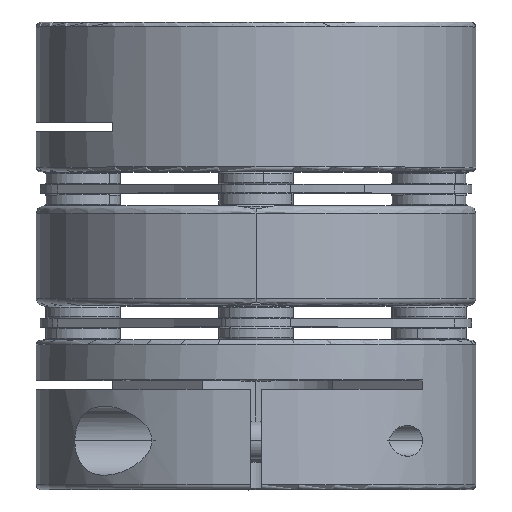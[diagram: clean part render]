
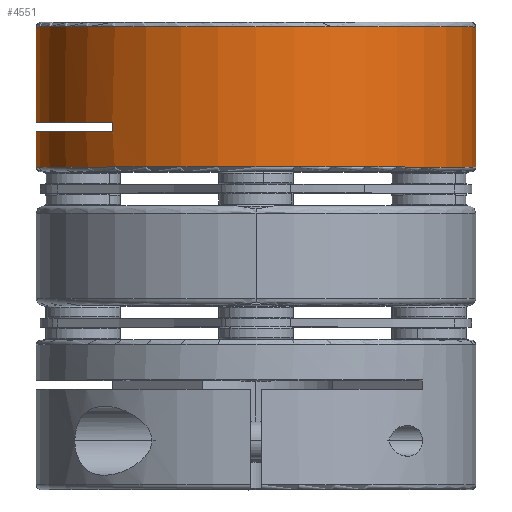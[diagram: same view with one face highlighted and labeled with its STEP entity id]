
A CAD part, top view. The second image highlights one B-rep face of the part: STEP entity #4551.
In plain terms, the highlighted cylindrical face has radius 23.5 mm (diameter 47 mm), a partial arc.
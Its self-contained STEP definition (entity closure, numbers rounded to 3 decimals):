
#2765 = CARTESIAN_POINT ( 'NONE',  ( 0., 29.84, 0. ) ) ;
#2766 = DIRECTION ( 'NONE',  ( 0., -1., 0. ) ) ;
#2767 = DIRECTION ( 'NONE',  ( 1., 0., 0. ) ) ;
#3980 = DIRECTION ( 'NONE',  ( 0., 1., 0. ) ) ;
#3981 = CARTESIAN_POINT ( 'NONE',  ( 0., 14.34, 0. ) ) ;
#3982 = DIRECTION ( 'NONE',  ( 1., 0., 0. ) ) ;
#4551 = ADVANCED_FACE ( 'NONE', ( #10308 ), #10312, .T. ) ;
#4663 = ORIENTED_EDGE ( 'NONE', *, *, #6361, .F. ) ;
#4706 = ORIENTED_EDGE ( 'NONE', *, *, #5575, .F. ) ;
#4720 = ORIENTED_EDGE ( 'NONE', *, *, #6377, .T. ) ;
#4913 = ORIENTED_EDGE ( 'NONE', *, *, #5570, .T. ) ;
#5128 = ORIENTED_EDGE ( 'NONE', *, *, #5574, .T. ) ;
#5142 = ORIENTED_EDGE ( 'NONE', *, *, #5573, .F. ) ;
#5149 = ORIENTED_EDGE ( 'NONE', *, *, #6355, .T. ) ;
#5154 = ORIENTED_EDGE ( 'NONE', *, *, #6352, .F. ) ;
#5570 = EDGE_CURVE ( 'NONE', #9816, #9801, #13312, .T. ) ;
#5573 = EDGE_CURVE ( 'NONE', #8866, #9827, #13317, .T. ) ;
#5574 = EDGE_CURVE ( 'NONE', #8866, #9454, #13316, .T. ) ;
#5575 = EDGE_CURVE ( 'NONE', #9794, #9454, #13319, .T. ) ;
#6352 = EDGE_CURVE ( 'NONE', #9827, #12254, #21816, .T. ) ;
#6355 = EDGE_CURVE ( 'NONE', #9801, #12261, #21827, .T. ) ;
#6361 = EDGE_CURVE ( 'NONE', #9816, #9794, #21837, .T. ) ;
#6377 = EDGE_CURVE ( 'NONE', #12261, #12254, #21853, .T. ) ;
#6988 = AXIS2_PLACEMENT_3D ( 'NONE', #3981, #3980, #3982 ) ;
#7358 = AXIS2_PLACEMENT_3D ( 'NONE', #10704, #10707, #10703 ) ;
#7361 = AXIS2_PLACEMENT_3D ( 'NONE', #10690, #10693, #10688 ) ;
#7362 = AXIS2_PLACEMENT_3D ( 'NONE', #10685, #10683, #10687 ) ;
#8866 = VERTEX_POINT ( 'NONE', #22148 ) ;
#9454 = VERTEX_POINT ( 'NONE', #22524 ) ;
#9794 = VERTEX_POINT ( 'NONE', #22736 ) ;
#9801 = VERTEX_POINT ( 'NONE', #22740 ) ;
#9816 = VERTEX_POINT ( 'NONE', #22752 ) ;
#9827 = VERTEX_POINT ( 'NONE', #22750 ) ;
#10308 = FACE_OUTER_BOUND ( 'NONE', #15294, .T. ) ;
#10312 = CYLINDRICAL_SURFACE ( 'NONE', #6988, 23.5 ) ;
#10683 = DIRECTION ( 'NONE',  ( 0., 1., 0. ) ) ;
#10685 = CARTESIAN_POINT ( 'NONE',  ( 0., 18.64, 0. ) ) ;
#10687 = DIRECTION ( 'NONE',  ( 0., 0., -1. ) ) ;
#10688 = DIRECTION ( 'NONE',  ( 0., 0., 1. ) ) ;
#10690 = CARTESIAN_POINT ( 'NONE',  ( 0., 19.64, 0. ) ) ;
#10693 = DIRECTION ( 'NONE',  ( 0., -1., 0. ) ) ;
#10694 = CARTESIAN_POINT ( 'NONE',  ( -15.371, 14.34, 17.776 ) ) ;
#10699 = DIRECTION ( 'NONE',  ( 0., -1., 0. ) ) ;
#10703 = DIRECTION ( 'NONE',  ( 1., 0., 0. ) ) ;
#10704 = CARTESIAN_POINT ( 'NONE',  ( 0., 14.84, 0. ) ) ;
#10707 = DIRECTION ( 'NONE',  ( 0., 1., 0. ) ) ;
#11018 = CARTESIAN_POINT ( 'NONE',  ( 23.5, 14.34, 0. ) ) ;
#11019 = CARTESIAN_POINT ( 'NONE',  ( -23.5, 14.34, 0. ) ) ;
#11023 = DIRECTION ( 'NONE',  ( 0., 1., 0. ) ) ;
#11067 = DIRECTION ( 'NONE',  ( 0., 1., 0. ) ) ;
#11075 = CARTESIAN_POINT ( 'NONE',  ( -23.5, 14.34, 0. ) ) ;
#11076 = DIRECTION ( 'NONE',  ( 0., 1., 0. ) ) ;
#12254 = VERTEX_POINT ( 'NONE', #19254 ) ;
#12261 = VERTEX_POINT ( 'NONE', #19260 ) ;
#13312 = CIRCLE ( 'NONE', #7358, 23.5 ) ;
#13316 = LINE ( 'NONE', #10694, #13320 ) ;
#13317 = CIRCLE ( 'NONE', #7361, 23.5 ) ;
#13319 = CIRCLE ( 'NONE', #7362, 23.5 ) ;
#13320 = VECTOR ( 'NONE', #10699, 1000. ) ;
#14668 = AXIS2_PLACEMENT_3D ( 'NONE', #2765, #2766, #2767 ) ;
#15294 = EDGE_LOOP ( 'NONE', ( #4663, #4913, #5149, #4720, #5154, #5142, #5128, #4706 ) ) ;
#19254 = CARTESIAN_POINT ( 'NONE',  ( -23.5, 29.84, 0. ) ) ;
#19260 = CARTESIAN_POINT ( 'NONE',  ( 23.5, 29.84, 0. ) ) ;
#21816 = LINE ( 'NONE', #11019, #21825 ) ;
#21825 = VECTOR ( 'NONE', #11023, 1000. ) ;
#21827 = LINE ( 'NONE', #11018, #21829 ) ;
#21829 = VECTOR ( 'NONE', #11067, 1000. ) ;
#21837 = LINE ( 'NONE', #11075, #21839 ) ;
#21839 = VECTOR ( 'NONE', #11076, 1000. ) ;
#21853 = CIRCLE ( 'NONE', #14668, 23.5 ) ;
#22148 = CARTESIAN_POINT ( 'NONE',  ( -15.371, 19.64, 17.776 ) ) ;
#22524 = CARTESIAN_POINT ( 'NONE',  ( -15.371, 18.64, 17.776 ) ) ;
#22736 = CARTESIAN_POINT ( 'NONE',  ( -23.5, 18.64, 0. ) ) ;
#22740 = CARTESIAN_POINT ( 'NONE',  ( 23.5, 14.84, 0. ) ) ;
#22750 = CARTESIAN_POINT ( 'NONE',  ( -23.5, 19.64, 0. ) ) ;
#22752 = CARTESIAN_POINT ( 'NONE',  ( -23.5, 14.84, 0. ) ) ;
